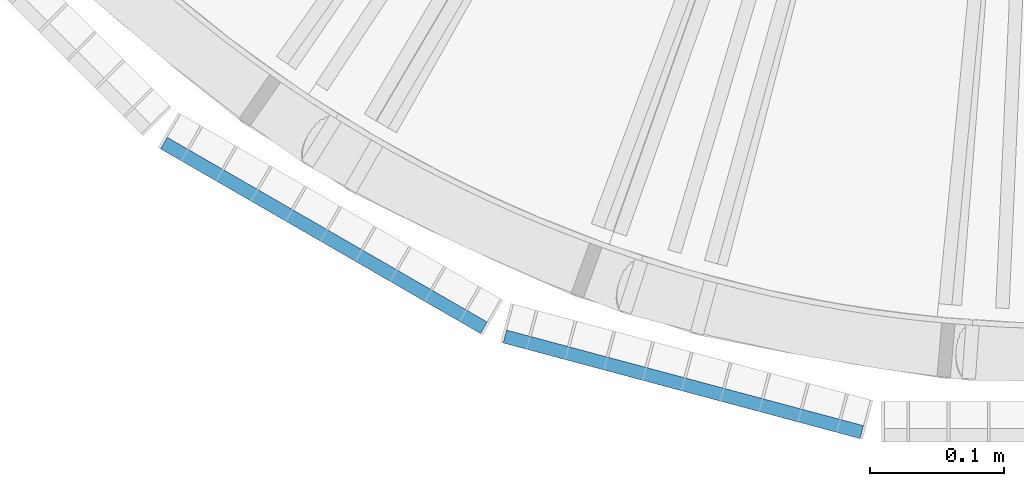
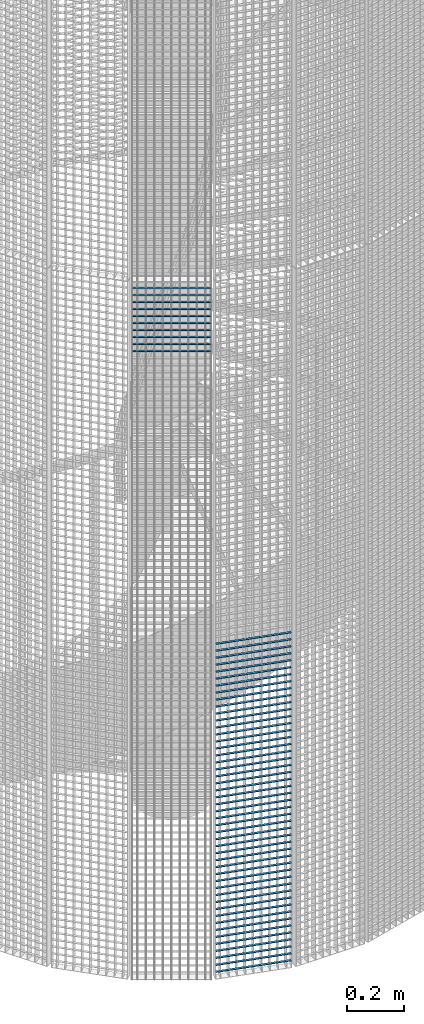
# One storey, part 172 of 1183: 58 beams, 2 elements without a shape of their own.
"""IFC2X3 building model written with IfcOpenShell, lengths in millimetres."""

from ifc_helpers import new_model, si_unit, frame, origin_with_axes, origin_2d_with_axis, place, context, subcontext, project, spatial, rectangle, extrude, material, type_object, element, aggregate, save


model = new_model("IFC2X3")

# Units and contexts
model_context = context("Model", 3, precision=1e-05, world=origin_with_axes())
body_context = subcontext(model_context, "Body", "Model", "MODEL_VIEW")
ifc_project = project(units=[si_unit("LENGTHUNIT", "METRE", prefix="MILLI"), si_unit("AREAUNIT", "SQUARE_METRE"), si_unit("VOLUMEUNIT", "CUBIC_METRE"), si_unit("MASSUNIT", "GRAM", prefix="KILO"), si_unit("TIMEUNIT", "SECOND"), si_unit("PLANEANGLEUNIT", "RADIAN"), si_unit("SOLIDANGLEUNIT", "STERADIAN"), si_unit("THERMODYNAMICTEMPERATUREUNIT", "DEGREE_CELSIUS"), si_unit("LUMINOUSINTENSITYUNIT", "LUMEN")], contexts=[model_context])

# Site, building, storey
site_placement = place(None, origin_with_axes())
site = spatial("IfcSite", under=ifc_project, at=site_placement, Name="Undefined", CompositionType="ELEMENT")
building_placement = place(site_placement, origin_with_axes())
building = spatial("IfcBuilding", under=site, at=building_placement, Name="Undefined", CompositionType="ELEMENT")
storey_placement = place(building_placement, origin_with_axes())
storey = spatial("IfcBuildingStorey", under=building, at=storey_placement, Name="Undefined", CompositionType="ELEMENT", Elevation=0.0)

# Assembly, beams
assembly_1_placement = place(storey_placement, origin_with_axes())
assembly_1 = element("IfcElementAssembly", 1, at=assembly_1_placement, inside=storey, Name="BORDURE", AssemblyPlace="NOTDEFINED", PredefinedType="NOTDEFINED")
ifc_material = material(Name="STEEL/S235JR")
beam_type = type_object("IfcBeamType", Name="PL2*10", PredefinedType="NOTDEFINED")
beam_1_placement = place(assembly_1_placement, frame((-421.483733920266, -1039.82309522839, 1440.0), z_axis=(-0.258819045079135, -0.965925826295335, 0.0), x_axis=(0.965925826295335, -0.258819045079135, 0.0)))
beam_1 = element("IfcBeam", 2, at=beam_1_placement, type_object=beam_type, material=ifc_material, Name="ENTRETOISE", context=body_context, shape_type="SweptSolid", body=[
    extrude(rectangle(XDim=2.0, YDim=10.0, at=origin_2d_with_axis()), frame((275.999999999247, 9.09494701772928e-13, 1.53210777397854e-14), z_axis=(-1.0, 0.0, 0.0), x_axis=(0.0, -1.0, 0.0)), (0.0, 0.0, 1.0), 276.0),
])
beam_2_placement = place(assembly_1_placement, frame((-421.483733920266, -1039.82309522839, 1410.0), z_axis=(-0.258819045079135, -0.965925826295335, 0.0), x_axis=(0.965925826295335, -0.258819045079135, 0.0)))
beam_2 = element("IfcBeam", 3, at=beam_2_placement, type_object=beam_type, material=ifc_material, Name="ENTRETOISE", context=body_context, shape_type="SweptSolid", body=[
    extrude(rectangle(XDim=2.0, YDim=10.0, at=origin_2d_with_axis()), frame((275.999999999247, 9.09494701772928e-13, 1.53210777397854e-14), z_axis=(-1.0, 0.0, 0.0), x_axis=(0.0, -1.0, 0.0)), (0.0, 0.0, 1.0), 276.0),
])
beam_3_placement = place(assembly_1_placement, frame((-421.483733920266, -1039.82309522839, 1380.0), z_axis=(-0.258819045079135, -0.965925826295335, 0.0), x_axis=(0.965925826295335, -0.258819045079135, 0.0)))
beam_3 = element("IfcBeam", 4, at=beam_3_placement, type_object=beam_type, material=ifc_material, Name="ENTRETOISE", context=body_context, shape_type="SweptSolid", body=[
    extrude(rectangle(XDim=2.0, YDim=10.0, at=origin_2d_with_axis()), frame((275.999999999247, 9.09494701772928e-13, 1.53210777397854e-14), z_axis=(-1.0, 0.0, 0.0), x_axis=(0.0, -1.0, 0.0)), (0.0, 0.0, 1.0), 276.0),
])
beam_4_placement = place(assembly_1_placement, frame((-421.483733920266, -1039.82309522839, 1350.0), z_axis=(-0.258819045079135, -0.965925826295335, 0.0), x_axis=(0.965925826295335, -0.258819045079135, 0.0)))
beam_4 = element("IfcBeam", 5, at=beam_4_placement, type_object=beam_type, material=ifc_material, Name="ENTRETOISE", context=body_context, shape_type="SweptSolid", body=[
    extrude(rectangle(XDim=2.0, YDim=10.0, at=origin_2d_with_axis()), frame((275.999999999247, 9.09494701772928e-13, 1.53210777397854e-14), z_axis=(-1.0, 0.0, 0.0), x_axis=(0.0, -1.0, 0.0)), (0.0, 0.0, 1.0), 276.0),
])
beam_5_placement = place(assembly_1_placement, frame((-421.483733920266, -1039.82309522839, 1320.0), z_axis=(-0.258819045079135, -0.965925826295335, 0.0), x_axis=(0.965925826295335, -0.258819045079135, 0.0)))
beam_5 = element("IfcBeam", 6, at=beam_5_placement, type_object=beam_type, material=ifc_material, Name="ENTRETOISE", context=body_context, shape_type="SweptSolid", body=[
    extrude(rectangle(XDim=2.0, YDim=10.0, at=origin_2d_with_axis()), frame((275.999999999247, 9.09494701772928e-13, 1.53210777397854e-14), z_axis=(-1.0, 0.0, 0.0), x_axis=(0.0, -1.0, 0.0)), (0.0, 0.0, 1.0), 276.0),
])
beam_6_placement = place(assembly_1_placement, frame((-421.483733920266, -1039.82309522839, 1290.0), z_axis=(-0.258819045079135, -0.965925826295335, 0.0), x_axis=(0.965925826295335, -0.258819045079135, 0.0)))
beam_6 = element("IfcBeam", 7, at=beam_6_placement, type_object=beam_type, material=ifc_material, Name="ENTRETOISE", context=body_context, shape_type="SweptSolid", body=[
    extrude(rectangle(XDim=2.0, YDim=10.0, at=origin_2d_with_axis()), frame((275.999999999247, 9.09494701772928e-13, 1.53210777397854e-14), z_axis=(-1.0, 0.0, 0.0), x_axis=(0.0, -1.0, 0.0)), (0.0, 0.0, 1.0), 276.0),
])
beam_7_placement = place(assembly_1_placement, frame((-421.483733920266, -1039.82309522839, 1260.0), z_axis=(-0.258819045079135, -0.965925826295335, 0.0), x_axis=(0.965925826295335, -0.258819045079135, 0.0)))
beam_7 = element("IfcBeam", 8, at=beam_7_placement, type_object=beam_type, material=ifc_material, Name="ENTRETOISE", context=body_context, shape_type="SweptSolid", body=[
    extrude(rectangle(XDim=2.0, YDim=10.0, at=origin_2d_with_axis()), frame((275.999999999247, 9.09494701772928e-13, 1.53210777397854e-14), z_axis=(-1.0, 0.0, 0.0), x_axis=(0.0, -1.0, 0.0)), (0.0, 0.0, 1.0), 276.0),
])
beam_8_placement = place(assembly_1_placement, frame((-421.483733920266, -1039.82309522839, 1230.0), z_axis=(-0.258819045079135, -0.965925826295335, 0.0), x_axis=(0.965925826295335, -0.258819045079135, 0.0)))
beam_8 = element("IfcBeam", 9, at=beam_8_placement, type_object=beam_type, material=ifc_material, Name="ENTRETOISE", context=body_context, shape_type="SweptSolid", body=[
    extrude(rectangle(XDim=2.0, YDim=10.0, at=origin_2d_with_axis()), frame((275.999999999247, 9.09494701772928e-13, 1.53210777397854e-14), z_axis=(-1.0, 0.0, 0.0), x_axis=(0.0, -1.0, 0.0)), (0.0, 0.0, 1.0), 276.0),
])
beam_9_placement = place(assembly_1_placement, frame((-421.483733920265, -1039.82309522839, 1200.0), z_axis=(-0.258819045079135, -0.965925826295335, 0.0), x_axis=(0.965925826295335, -0.258819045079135, 0.0)))
beam_9 = element("IfcBeam", 10, at=beam_9_placement, type_object=beam_type, material=ifc_material, Name="ENTRETOISE", context=body_context, shape_type="SweptSolid", body=[
    extrude(rectangle(XDim=2.0, YDim=10.0, at=origin_2d_with_axis()), frame((275.999999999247, 9.09494701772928e-13, 1.53210777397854e-14), z_axis=(-1.0, 0.0, 0.0), x_axis=(0.0, -1.0, 0.0)), (0.0, 0.0, 1.0), 276.0),
])
beam_10_placement = place(assembly_1_placement, frame((-421.483733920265, -1039.82309522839, 1170.0), z_axis=(-0.258819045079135, -0.965925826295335, 0.0), x_axis=(0.965925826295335, -0.258819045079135, 0.0)))
beam_10 = element("IfcBeam", 11, at=beam_10_placement, type_object=beam_type, material=ifc_material, Name="ENTRETOISE", context=body_context, shape_type="SweptSolid", body=[
    extrude(rectangle(XDim=2.0, YDim=10.0, at=origin_2d_with_axis()), frame((275.999999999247, 9.09494701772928e-13, 1.53210777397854e-14), z_axis=(-1.0, 0.0, 0.0), x_axis=(0.0, -1.0, 0.0)), (0.0, 0.0, 1.0), 276.0),
])
beam_11_placement = place(assembly_1_placement, frame((-421.483733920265, -1039.82309522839, 1140.0), z_axis=(-0.258819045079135, -0.965925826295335, 0.0), x_axis=(0.965925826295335, -0.258819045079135, 0.0)))
beam_11 = element("IfcBeam", 12, at=beam_11_placement, type_object=beam_type, material=ifc_material, Name="ENTRETOISE", context=body_context, shape_type="SweptSolid", body=[
    extrude(rectangle(XDim=2.0, YDim=10.0, at=origin_2d_with_axis()), frame((275.999999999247, 9.09494701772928e-13, 1.53210777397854e-14), z_axis=(-1.0, 0.0, 0.0), x_axis=(0.0, -1.0, 0.0)), (0.0, 0.0, 1.0), 276.0),
])
beam_12_placement = place(assembly_1_placement, frame((-421.483733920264, -1039.82309522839, 719.999999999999), z_axis=(-0.258819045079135, -0.965925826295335, 0.0), x_axis=(0.965925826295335, -0.258819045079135, 0.0)))
beam_12 = element("IfcBeam", 13, at=beam_12_placement, type_object=beam_type, material=ifc_material, Name="ENTRETOISE", context=body_context, shape_type="SweptSolid", body=[
    extrude(rectangle(XDim=2.0, YDim=10.0, at=origin_2d_with_axis()), frame((275.999999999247, 9.09494701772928e-13, 1.53210777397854e-14), z_axis=(-1.0, 0.0, 0.0), x_axis=(0.0, -1.0, 0.0)), (0.0, 0.0, 1.0), 276.0),
])
beam_13_placement = place(assembly_1_placement, frame((-421.483733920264, -1039.82309522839, 689.999999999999), z_axis=(-0.258819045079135, -0.965925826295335, 0.0), x_axis=(0.965925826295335, -0.258819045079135, 0.0)))
beam_13 = element("IfcBeam", 14, at=beam_13_placement, type_object=beam_type, material=ifc_material, Name="ENTRETOISE", context=body_context, shape_type="SweptSolid", body=[
    extrude(rectangle(XDim=2.0, YDim=10.0, at=origin_2d_with_axis()), frame((275.999999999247, 9.09494701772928e-13, 1.53210777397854e-14), z_axis=(-1.0, 0.0, 0.0), x_axis=(0.0, -1.0, 0.0)), (0.0, 0.0, 1.0), 276.0),
])
beam_14_placement = place(assembly_1_placement, frame((-421.483733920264, -1039.82309522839, 749.999999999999), z_axis=(-0.258819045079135, -0.965925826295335, 0.0), x_axis=(0.965925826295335, -0.258819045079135, 0.0)))
beam_14 = element("IfcBeam", 15, at=beam_14_placement, type_object=beam_type, material=ifc_material, Name="ENTRETOISE", context=body_context, shape_type="SweptSolid", body=[
    extrude(rectangle(XDim=2.0, YDim=10.0, at=origin_2d_with_axis()), frame((275.999999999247, 9.09494701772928e-13, 1.53210777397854e-14), z_axis=(-1.0, 0.0, 0.0), x_axis=(0.0, -1.0, 0.0)), (0.0, 0.0, 1.0), 276.0),
])
beam_15_placement = place(assembly_1_placement, frame((-421.483733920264, -1039.82309522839, 659.999999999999), z_axis=(-0.258819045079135, -0.965925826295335, 0.0), x_axis=(0.965925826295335, -0.258819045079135, 0.0)))
beam_15 = element("IfcBeam", 16, at=beam_15_placement, type_object=beam_type, material=ifc_material, Name="ENTRETOISE", context=body_context, shape_type="SweptSolid", body=[
    extrude(rectangle(XDim=2.0, YDim=10.0, at=origin_2d_with_axis()), frame((275.999999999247, 9.09494701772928e-13, 1.53210777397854e-14), z_axis=(-1.0, 0.0, 0.0), x_axis=(0.0, -1.0, 0.0)), (0.0, 0.0, 1.0), 276.0),
])
beam_16_placement = place(assembly_1_placement, frame((-421.483733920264, -1039.82309522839, 629.999999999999), z_axis=(-0.258819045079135, -0.965925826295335, 0.0), x_axis=(0.965925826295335, -0.258819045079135, 0.0)))
beam_16 = element("IfcBeam", 17, at=beam_16_placement, type_object=beam_type, material=ifc_material, Name="ENTRETOISE", context=body_context, shape_type="SweptSolid", body=[
    extrude(rectangle(XDim=2.0, YDim=10.0, at=origin_2d_with_axis()), frame((275.999999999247, 9.09494701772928e-13, 1.53210777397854e-14), z_axis=(-1.0, 0.0, 0.0), x_axis=(0.0, -1.0, 0.0)), (0.0, 0.0, 1.0), 276.0),
])
beam_17_placement = place(assembly_1_placement, frame((-421.483733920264, -1039.82309522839, 779.999999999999), z_axis=(-0.258819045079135, -0.965925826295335, 0.0), x_axis=(0.965925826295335, -0.258819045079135, 0.0)))
beam_17 = element("IfcBeam", 18, at=beam_17_placement, type_object=beam_type, material=ifc_material, Name="ENTRETOISE", context=body_context, shape_type="SweptSolid", body=[
    extrude(rectangle(XDim=2.0, YDim=10.0, at=origin_2d_with_axis()), frame((275.999999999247, 9.09494701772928e-13, 1.53210777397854e-14), z_axis=(-1.0, 0.0, 0.0), x_axis=(0.0, -1.0, 0.0)), (0.0, 0.0, 1.0), 276.0),
])
beam_18_placement = place(assembly_1_placement, frame((-421.483733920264, -1039.82309522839, 599.999999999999), z_axis=(-0.258819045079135, -0.965925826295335, 0.0), x_axis=(0.965925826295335, -0.258819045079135, 0.0)))
beam_18 = element("IfcBeam", 19, at=beam_18_placement, type_object=beam_type, material=ifc_material, Name="ENTRETOISE", context=body_context, shape_type="SweptSolid", body=[
    extrude(rectangle(XDim=2.0, YDim=10.0, at=origin_2d_with_axis()), frame((275.999999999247, 9.09494701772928e-13, 1.53210777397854e-14), z_axis=(-1.0, 0.0, 0.0), x_axis=(0.0, -1.0, 0.0)), (0.0, 0.0, 1.0), 276.0),
])
beam_19_placement = place(assembly_1_placement, frame((-421.483733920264, -1039.82309522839, 809.999999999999), z_axis=(-0.258819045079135, -0.965925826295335, 0.0), x_axis=(0.965925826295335, -0.258819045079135, 0.0)))
beam_19 = element("IfcBeam", 20, at=beam_19_placement, type_object=beam_type, material=ifc_material, Name="ENTRETOISE", context=body_context, shape_type="SweptSolid", body=[
    extrude(rectangle(XDim=2.0, YDim=10.0, at=origin_2d_with_axis()), frame((275.999999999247, 9.09494701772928e-13, 1.53210777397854e-14), z_axis=(-1.0, 0.0, 0.0), x_axis=(0.0, -1.0, 0.0)), (0.0, 0.0, 1.0), 276.0),
])
beam_20_placement = place(assembly_1_placement, frame((-421.483733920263, -1039.82309522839, 569.999999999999), z_axis=(-0.258819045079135, -0.965925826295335, 0.0), x_axis=(0.965925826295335, -0.258819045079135, 0.0)))
beam_20 = element("IfcBeam", 21, at=beam_20_placement, type_object=beam_type, material=ifc_material, Name="ENTRETOISE", context=body_context, shape_type="SweptSolid", body=[
    extrude(rectangle(XDim=2.0, YDim=10.0, at=origin_2d_with_axis()), frame((275.999999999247, 9.09494701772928e-13, 1.53210777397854e-14), z_axis=(-1.0, 0.0, 0.0), x_axis=(0.0, -1.0, 0.0)), (0.0, 0.0, 1.0), 276.0),
])
beam_21_placement = place(assembly_1_placement, frame((-421.483733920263, -1039.82309522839, 539.999999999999), z_axis=(-0.258819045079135, -0.965925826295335, 0.0), x_axis=(0.965925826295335, -0.258819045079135, 0.0)))
beam_21 = element("IfcBeam", 22, at=beam_21_placement, type_object=beam_type, material=ifc_material, Name="ENTRETOISE", context=body_context, shape_type="SweptSolid", body=[
    extrude(rectangle(XDim=2.0, YDim=10.0, at=origin_2d_with_axis()), frame((275.999999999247, 9.09494701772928e-13, 1.53210777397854e-14), z_axis=(-1.0, 0.0, 0.0), x_axis=(0.0, -1.0, 0.0)), (0.0, 0.0, 1.0), 276.0),
])
beam_22_placement = place(assembly_1_placement, frame((-421.483733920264, -1039.82309522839, 839.999999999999), z_axis=(-0.258819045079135, -0.965925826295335, 0.0), x_axis=(0.965925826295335, -0.258819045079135, 0.0)))
beam_22 = element("IfcBeam", 23, at=beam_22_placement, type_object=beam_type, material=ifc_material, Name="ENTRETOISE", context=body_context, shape_type="SweptSolid", body=[
    extrude(rectangle(XDim=2.0, YDim=10.0, at=origin_2d_with_axis()), frame((275.999999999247, 9.09494701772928e-13, 1.53210777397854e-14), z_axis=(-1.0, 0.0, 0.0), x_axis=(0.0, -1.0, 0.0)), (0.0, 0.0, 1.0), 276.0),
])
beam_23_placement = place(assembly_1_placement, frame((-421.483733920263, -1039.82309522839, 509.999999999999), z_axis=(-0.258819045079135, -0.965925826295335, 0.0), x_axis=(0.965925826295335, -0.258819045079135, 0.0)))
beam_23 = element("IfcBeam", 24, at=beam_23_placement, type_object=beam_type, material=ifc_material, Name="ENTRETOISE", context=body_context, shape_type="SweptSolid", body=[
    extrude(rectangle(XDim=2.0, YDim=10.0, at=origin_2d_with_axis()), frame((275.999999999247, 9.09494701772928e-13, 1.53210777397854e-14), z_axis=(-1.0, 0.0, 0.0), x_axis=(0.0, -1.0, 0.0)), (0.0, 0.0, 1.0), 276.0),
])
beam_24_placement = place(assembly_1_placement, frame((-421.483733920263, -1039.82309522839, 479.999999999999), z_axis=(-0.258819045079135, -0.965925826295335, 0.0), x_axis=(0.965925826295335, -0.258819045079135, 0.0)))
beam_24 = element("IfcBeam", 25, at=beam_24_placement, type_object=beam_type, material=ifc_material, Name="ENTRETOISE", context=body_context, shape_type="SweptSolid", body=[
    extrude(rectangle(XDim=2.0, YDim=10.0, at=origin_2d_with_axis()), frame((275.999999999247, 9.09494701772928e-13, 1.53210777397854e-14), z_axis=(-1.0, 0.0, 0.0), x_axis=(0.0, -1.0, 0.0)), (0.0, 0.0, 1.0), 276.0),
])
beam_25_placement = place(assembly_1_placement, frame((-421.483733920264, -1039.82309522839, 869.999999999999), z_axis=(-0.258819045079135, -0.965925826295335, 0.0), x_axis=(0.965925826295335, -0.258819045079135, 0.0)))
beam_25 = element("IfcBeam", 26, at=beam_25_placement, type_object=beam_type, material=ifc_material, Name="ENTRETOISE", context=body_context, shape_type="SweptSolid", body=[
    extrude(rectangle(XDim=2.0, YDim=10.0, at=origin_2d_with_axis()), frame((275.999999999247, 9.09494701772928e-13, 1.53210777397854e-14), z_axis=(-1.0, 0.0, 0.0), x_axis=(0.0, -1.0, 0.0)), (0.0, 0.0, 1.0), 276.0),
])
beam_26_placement = place(assembly_1_placement, frame((-421.483733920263, -1039.82309522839, 449.999999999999), z_axis=(-0.258819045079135, -0.965925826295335, 0.0), x_axis=(0.965925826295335, -0.258819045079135, 0.0)))
beam_26 = element("IfcBeam", 27, at=beam_26_placement, type_object=beam_type, material=ifc_material, Name="ENTRETOISE", context=body_context, shape_type="SweptSolid", body=[
    extrude(rectangle(XDim=2.0, YDim=10.0, at=origin_2d_with_axis()), frame((275.999999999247, 9.09494701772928e-13, 1.53210777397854e-14), z_axis=(-1.0, 0.0, 0.0), x_axis=(0.0, -1.0, 0.0)), (0.0, 0.0, 1.0), 276.0),
])
beam_27_placement = place(assembly_1_placement, frame((-421.483733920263, -1039.82309522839, 419.999999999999), z_axis=(-0.258819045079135, -0.965925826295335, 0.0), x_axis=(0.965925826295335, -0.258819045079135, 0.0)))
beam_27 = element("IfcBeam", 28, at=beam_27_placement, type_object=beam_type, material=ifc_material, Name="ENTRETOISE", context=body_context, shape_type="SweptSolid", body=[
    extrude(rectangle(XDim=2.0, YDim=10.0, at=origin_2d_with_axis()), frame((275.999999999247, 9.09494701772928e-13, 1.53210777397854e-14), z_axis=(-1.0, 0.0, 0.0), x_axis=(0.0, -1.0, 0.0)), (0.0, 0.0, 1.0), 276.0),
])
beam_28_placement = place(assembly_1_placement, frame((-421.483733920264, -1039.82309522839, 899.999999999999), z_axis=(-0.258819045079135, -0.965925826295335, 0.0), x_axis=(0.965925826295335, -0.258819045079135, 0.0)))
beam_28 = element("IfcBeam", 29, at=beam_28_placement, type_object=beam_type, material=ifc_material, Name="ENTRETOISE", context=body_context, shape_type="SweptSolid", body=[
    extrude(rectangle(XDim=2.0, YDim=10.0, at=origin_2d_with_axis()), frame((275.999999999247, 9.09494701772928e-13, 1.53210777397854e-14), z_axis=(-1.0, 0.0, 0.0), x_axis=(0.0, -1.0, 0.0)), (0.0, 0.0, 1.0), 276.0),
])
beam_29_placement = place(assembly_1_placement, frame((-421.483733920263, -1039.82309522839, 389.999999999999), z_axis=(-0.258819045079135, -0.965925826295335, 0.0), x_axis=(0.965925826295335, -0.258819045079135, 0.0)))
beam_29 = element("IfcBeam", 30, at=beam_29_placement, type_object=beam_type, material=ifc_material, Name="ENTRETOISE", context=body_context, shape_type="SweptSolid", body=[
    extrude(rectangle(XDim=2.0, YDim=10.0, at=origin_2d_with_axis()), frame((275.999999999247, 9.09494701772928e-13, 1.53210777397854e-14), z_axis=(-1.0, 0.0, 0.0), x_axis=(0.0, -1.0, 0.0)), (0.0, 0.0, 1.0), 276.0),
])
beam_30_placement = place(assembly_1_placement, frame((-421.483733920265, -1039.82309522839, 929.999999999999), z_axis=(-0.258819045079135, -0.965925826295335, 0.0), x_axis=(0.965925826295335, -0.258819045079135, 0.0)))
beam_30 = element("IfcBeam", 31, at=beam_30_placement, type_object=beam_type, material=ifc_material, Name="ENTRETOISE", context=body_context, shape_type="SweptSolid", body=[
    extrude(rectangle(XDim=2.0, YDim=10.0, at=origin_2d_with_axis()), frame((275.999999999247, 9.09494701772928e-13, 1.53210777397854e-14), z_axis=(-1.0, 0.0, 0.0), x_axis=(0.0, -1.0, 0.0)), (0.0, 0.0, 1.0), 276.0),
])
beam_31_placement = place(assembly_1_placement, frame((-421.483733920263, -1039.82309522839, 359.999999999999), z_axis=(-0.258819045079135, -0.965925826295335, 0.0), x_axis=(0.965925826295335, -0.258819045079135, 0.0)))
beam_31 = element("IfcBeam", 32, at=beam_31_placement, type_object=beam_type, material=ifc_material, Name="ENTRETOISE", context=body_context, shape_type="SweptSolid", body=[
    extrude(rectangle(XDim=2.0, YDim=10.0, at=origin_2d_with_axis()), frame((275.999999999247, 9.09494701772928e-13, 1.53210777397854e-14), z_axis=(-1.0, 0.0, 0.0), x_axis=(0.0, -1.0, 0.0)), (0.0, 0.0, 1.0), 276.0),
])
beam_32_placement = place(assembly_1_placement, frame((-421.483733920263, -1039.82309522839, 329.999999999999), z_axis=(-0.258819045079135, -0.965925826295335, 0.0), x_axis=(0.965925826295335, -0.258819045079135, 0.0)))
beam_32 = element("IfcBeam", 33, at=beam_32_placement, type_object=beam_type, material=ifc_material, Name="ENTRETOISE", context=body_context, shape_type="SweptSolid", body=[
    extrude(rectangle(XDim=2.0, YDim=10.0, at=origin_2d_with_axis()), frame((275.999999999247, 9.09494701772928e-13, 1.53210777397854e-14), z_axis=(-1.0, 0.0, 0.0), x_axis=(0.0, -1.0, 0.0)), (0.0, 0.0, 1.0), 276.0),
])
beam_33_placement = place(assembly_1_placement, frame((-421.483733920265, -1039.82309522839, 959.999999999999), z_axis=(-0.258819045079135, -0.965925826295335, 0.0), x_axis=(0.965925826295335, -0.258819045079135, 0.0)))
beam_33 = element("IfcBeam", 34, at=beam_33_placement, type_object=beam_type, material=ifc_material, Name="ENTRETOISE", context=body_context, shape_type="SweptSolid", body=[
    extrude(rectangle(XDim=2.0, YDim=10.0, at=origin_2d_with_axis()), frame((275.999999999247, 9.09494701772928e-13, 1.53210777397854e-14), z_axis=(-1.0, 0.0, 0.0), x_axis=(0.0, -1.0, 0.0)), (0.0, 0.0, 1.0), 276.0),
])
beam_34_placement = place(assembly_1_placement, frame((-421.483733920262, -1039.82309522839, 299.999999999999), z_axis=(-0.258819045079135, -0.965925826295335, 0.0), x_axis=(0.965925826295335, -0.258819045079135, 0.0)))
beam_34 = element("IfcBeam", 35, at=beam_34_placement, type_object=beam_type, material=ifc_material, Name="ENTRETOISE", context=body_context, shape_type="SweptSolid", body=[
    extrude(rectangle(XDim=2.0, YDim=10.0, at=origin_2d_with_axis()), frame((275.999999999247, 9.09494701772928e-13, 1.53210777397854e-14), z_axis=(-1.0, 0.0, 0.0), x_axis=(0.0, -1.0, 0.0)), (0.0, 0.0, 1.0), 276.0),
])
beam_35_placement = place(assembly_1_placement, frame((-421.483733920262, -1039.82309522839, 269.999999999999), z_axis=(-0.258819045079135, -0.965925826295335, 0.0), x_axis=(0.965925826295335, -0.258819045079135, 0.0)))
beam_35 = element("IfcBeam", 36, at=beam_35_placement, type_object=beam_type, material=ifc_material, Name="ENTRETOISE", context=body_context, shape_type="SweptSolid", body=[
    extrude(rectangle(XDim=2.0, YDim=10.0, at=origin_2d_with_axis()), frame((275.999999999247, 9.09494701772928e-13, 1.53210777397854e-14), z_axis=(-1.0, 0.0, 0.0), x_axis=(0.0, -1.0, 0.0)), (0.0, 0.0, 1.0), 276.0),
])
beam_36_placement = place(assembly_1_placement, frame((-421.483733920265, -1039.82309522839, 989.999999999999), z_axis=(-0.258819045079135, -0.965925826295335, 0.0), x_axis=(0.965925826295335, -0.258819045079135, 0.0)))
beam_36 = element("IfcBeam", 37, at=beam_36_placement, type_object=beam_type, material=ifc_material, Name="ENTRETOISE", context=body_context, shape_type="SweptSolid", body=[
    extrude(rectangle(XDim=2.0, YDim=10.0, at=origin_2d_with_axis()), frame((275.999999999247, 9.09494701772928e-13, 1.53210777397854e-14), z_axis=(-1.0, 0.0, 0.0), x_axis=(0.0, -1.0, 0.0)), (0.0, 0.0, 1.0), 276.0),
])
beam_37_placement = place(assembly_1_placement, frame((-421.483733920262, -1039.82309522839, 239.999999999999), z_axis=(-0.258819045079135, -0.965925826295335, 0.0), x_axis=(0.965925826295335, -0.258819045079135, 0.0)))
beam_37 = element("IfcBeam", 38, at=beam_37_placement, type_object=beam_type, material=ifc_material, Name="ENTRETOISE", context=body_context, shape_type="SweptSolid", body=[
    extrude(rectangle(XDim=2.0, YDim=10.0, at=origin_2d_with_axis()), frame((275.999999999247, 9.09494701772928e-13, 1.53210777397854e-14), z_axis=(-1.0, 0.0, 0.0), x_axis=(0.0, -1.0, 0.0)), (0.0, 0.0, 1.0), 276.0),
])
beam_38_placement = place(assembly_1_placement, frame((-421.483733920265, -1039.82309522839, 1020.0), z_axis=(-0.258819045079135, -0.965925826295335, 0.0), x_axis=(0.965925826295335, -0.258819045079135, 0.0)))
beam_38 = element("IfcBeam", 39, at=beam_38_placement, type_object=beam_type, material=ifc_material, Name="ENTRETOISE", context=body_context, shape_type="SweptSolid", body=[
    extrude(rectangle(XDim=2.0, YDim=10.0, at=origin_2d_with_axis()), frame((275.999999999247, 9.09494701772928e-13, 1.53210777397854e-14), z_axis=(-1.0, 0.0, 0.0), x_axis=(0.0, -1.0, 0.0)), (0.0, 0.0, 1.0), 276.0),
])
beam_39_placement = place(assembly_1_placement, frame((-421.483733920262, -1039.82309522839, 209.999999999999), z_axis=(-0.258819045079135, -0.965925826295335, 0.0), x_axis=(0.965925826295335, -0.258819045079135, 0.0)))
beam_39 = element("IfcBeam", 40, at=beam_39_placement, type_object=beam_type, material=ifc_material, Name="ENTRETOISE", context=body_context, shape_type="SweptSolid", body=[
    extrude(rectangle(XDim=2.0, YDim=10.0, at=origin_2d_with_axis()), frame((275.999999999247, 9.09494701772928e-13, 1.53210777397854e-14), z_axis=(-1.0, 0.0, 0.0), x_axis=(0.0, -1.0, 0.0)), (0.0, 0.0, 1.0), 276.0),
])
beam_40_placement = place(assembly_1_placement, frame((-421.483733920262, -1039.82309522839, 179.999999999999), z_axis=(-0.258819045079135, -0.965925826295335, 0.0), x_axis=(0.965925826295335, -0.258819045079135, 0.0)))
beam_40 = element("IfcBeam", 41, at=beam_40_placement, type_object=beam_type, material=ifc_material, Name="ENTRETOISE", context=body_context, shape_type="SweptSolid", body=[
    extrude(rectangle(XDim=2.0, YDim=10.0, at=origin_2d_with_axis()), frame((275.999999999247, 9.09494701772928e-13, 1.53210777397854e-14), z_axis=(-1.0, 0.0, 0.0), x_axis=(0.0, -1.0, 0.0)), (0.0, 0.0, 1.0), 276.0),
])
beam_41_placement = place(assembly_1_placement, frame((-421.483733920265, -1039.82309522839, 1050.0), z_axis=(-0.258819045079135, -0.965925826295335, 0.0), x_axis=(0.965925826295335, -0.258819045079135, 0.0)))
beam_41 = element("IfcBeam", 42, at=beam_41_placement, type_object=beam_type, material=ifc_material, Name="ENTRETOISE", context=body_context, shape_type="SweptSolid", body=[
    extrude(rectangle(XDim=2.0, YDim=10.0, at=origin_2d_with_axis()), frame((275.999999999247, 9.09494701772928e-13, 1.53210777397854e-14), z_axis=(-1.0, 0.0, 0.0), x_axis=(0.0, -1.0, 0.0)), (0.0, 0.0, 1.0), 276.0),
])
beam_42_placement = place(assembly_1_placement, frame((-421.483733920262, -1039.82309522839, 149.999999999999), z_axis=(-0.258819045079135, -0.965925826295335, 0.0), x_axis=(0.965925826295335, -0.258819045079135, 0.0)))
beam_42 = element("IfcBeam", 43, at=beam_42_placement, type_object=beam_type, material=ifc_material, Name="ENTRETOISE", context=body_context, shape_type="SweptSolid", body=[
    extrude(rectangle(XDim=2.0, YDim=10.0, at=origin_2d_with_axis()), frame((275.999999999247, 9.09494701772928e-13, 1.53210777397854e-14), z_axis=(-1.0, 0.0, 0.0), x_axis=(0.0, -1.0, 0.0)), (0.0, 0.0, 1.0), 276.0),
])
beam_43_placement = place(assembly_1_placement, frame((-421.483733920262, -1039.82309522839, 119.999999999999), z_axis=(-0.258819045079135, -0.965925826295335, 0.0), x_axis=(0.965925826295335, -0.258819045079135, 0.0)))
beam_43 = element("IfcBeam", 44, at=beam_43_placement, type_object=beam_type, material=ifc_material, Name="ENTRETOISE", context=body_context, shape_type="SweptSolid", body=[
    extrude(rectangle(XDim=2.0, YDim=10.0, at=origin_2d_with_axis()), frame((275.999999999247, 9.09494701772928e-13, 1.53210777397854e-14), z_axis=(-1.0, 0.0, 0.0), x_axis=(0.0, -1.0, 0.0)), (0.0, 0.0, 1.0), 276.0),
])
beam_44_placement = place(assembly_1_placement, frame((-421.483733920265, -1039.82309522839, 1080.0), z_axis=(-0.258819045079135, -0.965925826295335, 0.0), x_axis=(0.965925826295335, -0.258819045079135, 0.0)))
beam_44 = element("IfcBeam", 45, at=beam_44_placement, type_object=beam_type, material=ifc_material, Name="ENTRETOISE", context=body_context, shape_type="SweptSolid", body=[
    extrude(rectangle(XDim=2.0, YDim=10.0, at=origin_2d_with_axis()), frame((275.999999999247, 9.09494701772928e-13, 1.53210777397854e-14), z_axis=(-1.0, 0.0, 0.0), x_axis=(0.0, -1.0, 0.0)), (0.0, 0.0, 1.0), 276.0),
])
beam_45_placement = place(assembly_1_placement, frame((-421.483733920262, -1039.82309522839, 89.9999999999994), z_axis=(-0.258819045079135, -0.965925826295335, 0.0), x_axis=(0.965925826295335, -0.258819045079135, 0.0)))
beam_45 = element("IfcBeam", 46, at=beam_45_placement, type_object=beam_type, material=ifc_material, Name="ENTRETOISE", context=body_context, shape_type="SweptSolid", body=[
    extrude(rectangle(XDim=2.0, YDim=10.0, at=origin_2d_with_axis()), frame((275.999999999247, 9.09494701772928e-13, 1.53210777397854e-14), z_axis=(-1.0, 0.0, 0.0), x_axis=(0.0, -1.0, 0.0)), (0.0, 0.0, 1.0), 276.0),
])
beam_46_placement = place(assembly_1_placement, frame((-421.483733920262, -1039.82309522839, 59.9999999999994), z_axis=(-0.258819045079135, -0.965925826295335, 0.0), x_axis=(0.965925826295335, -0.258819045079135, 0.0)))
beam_46 = element("IfcBeam", 47, at=beam_46_placement, type_object=beam_type, material=ifc_material, Name="ENTRETOISE", context=body_context, shape_type="SweptSolid", body=[
    extrude(rectangle(XDim=2.0, YDim=10.0, at=origin_2d_with_axis()), frame((275.999999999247, 9.09494701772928e-13, 1.53210777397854e-14), z_axis=(-1.0, 0.0, 0.0), x_axis=(0.0, -1.0, 0.0)), (0.0, 0.0, 1.0), 276.0),
])
beam_47_placement = place(assembly_1_placement, frame((-421.483733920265, -1039.82309522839, 1110.0), z_axis=(-0.258819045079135, -0.965925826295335, 0.0), x_axis=(0.965925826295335, -0.258819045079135, 0.0)))
beam_47 = element("IfcBeam", 48, at=beam_47_placement, type_object=beam_type, material=ifc_material, Name="ENTRETOISE", context=body_context, shape_type="SweptSolid", body=[
    extrude(rectangle(XDim=2.0, YDim=10.0, at=origin_2d_with_axis()), frame((275.999999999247, 9.09494701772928e-13, 1.53210777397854e-14), z_axis=(-1.0, 0.0, 0.0), x_axis=(0.0, -1.0, 0.0)), (0.0, 0.0, 1.0), 276.0),
])
beam_48_placement = place(assembly_1_placement, frame((-421.48373392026, -1039.82309522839, 29.9999999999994), z_axis=(-0.258819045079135, -0.965925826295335, 0.0), x_axis=(0.965925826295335, -0.258819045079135, 0.0)))
beam_48 = element("IfcBeam", 49, at=beam_48_placement, type_object=beam_type, material=ifc_material, Name="ENTRETOISE", context=body_context, shape_type="SweptSolid", body=[
    extrude(rectangle(XDim=2.0, YDim=10.0, at=origin_2d_with_axis()), frame((275.999999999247, 9.09494701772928e-13, 1.53210777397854e-14), z_axis=(-1.0, 0.0, 0.0), x_axis=(0.0, -1.0, 0.0)), (0.0, 0.0, 1.0), 276.0),
])
aggregate(assembly_1, [beam_1, beam_2, beam_3, beam_4, beam_5, beam_6, beam_7, beam_8, beam_9, beam_10, beam_11, beam_12, beam_13, beam_14, beam_15, beam_16, beam_17, beam_18, beam_19, beam_20, beam_21, beam_22, beam_23, beam_24, beam_25, beam_26, beam_27, beam_28, beam_29, beam_30, beam_31, beam_32, beam_33, beam_34, beam_35, beam_36, beam_37, beam_38, beam_39, beam_40, beam_41, beam_42, beam_43, beam_44, beam_45, beam_46, beam_47, beam_48])

assembly_2_placement = place(storey_placement, origin_with_axes())
assembly_2 = element("IfcElementAssembly", 50, at=assembly_2_placement, inside=storey, Name="BORDURE", AssemblyPlace="NOTDEFINED", PredefinedType="NOTDEFINED")
beam_49_placement = place(assembly_2_placement, frame((-676.248044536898, -895.303964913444, 2970.0), z_axis=(-0.49999999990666, -0.866025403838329, 0.0), x_axis=(0.866025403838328, -0.49999999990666, 0.0)))
beam_49 = element("IfcBeam", 51, at=beam_49_placement, type_object=beam_type, material=ifc_material, Name="ENTRETOISE", context=body_context, shape_type="SweptSolid", body=[
    extrude(rectangle(XDim=2.0, YDim=10.0, at=origin_2d_with_axis()), frame((275.999999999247, 9.09494701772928e-13, 1.53210777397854e-14), z_axis=(-1.0, 0.0, 0.0), x_axis=(0.0, -1.0, 0.0)), (0.0, 0.0, 1.0), 276.0),
])
beam_50_placement = place(assembly_2_placement, frame((-676.248044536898, -895.303964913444, 2940.0), z_axis=(-0.49999999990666, -0.866025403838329, 0.0), x_axis=(0.866025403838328, -0.49999999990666, 0.0)))
beam_50 = element("IfcBeam", 52, at=beam_50_placement, type_object=beam_type, material=ifc_material, Name="ENTRETOISE", context=body_context, shape_type="SweptSolid", body=[
    extrude(rectangle(XDim=2.0, YDim=10.0, at=origin_2d_with_axis()), frame((275.999999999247, 9.09494701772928e-13, 1.53210777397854e-14), z_axis=(-1.0, 0.0, 0.0), x_axis=(0.0, -1.0, 0.0)), (0.0, 0.0, 1.0), 276.0),
])
beam_51_placement = place(assembly_2_placement, frame((-676.248044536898, -895.303964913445, 2910.0), z_axis=(-0.49999999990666, -0.866025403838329, 0.0), x_axis=(0.866025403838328, -0.49999999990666, 0.0)))
beam_51 = element("IfcBeam", 53, at=beam_51_placement, type_object=beam_type, material=ifc_material, Name="ENTRETOISE", context=body_context, shape_type="SweptSolid", body=[
    extrude(rectangle(XDim=2.0, YDim=10.0, at=origin_2d_with_axis()), frame((275.999999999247, 9.09494701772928e-13, 1.53210777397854e-14), z_axis=(-1.0, 0.0, 0.0), x_axis=(0.0, -1.0, 0.0)), (0.0, 0.0, 1.0), 276.0),
])
beam_52_placement = place(assembly_2_placement, frame((-676.248044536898, -895.303964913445, 2880.0), z_axis=(-0.49999999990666, -0.866025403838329, 0.0), x_axis=(0.866025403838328, -0.49999999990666, 0.0)))
beam_52 = element("IfcBeam", 54, at=beam_52_placement, type_object=beam_type, material=ifc_material, Name="ENTRETOISE", context=body_context, shape_type="SweptSolid", body=[
    extrude(rectangle(XDim=2.0, YDim=10.0, at=origin_2d_with_axis()), frame((275.999999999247, 9.09494701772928e-13, 1.53210777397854e-14), z_axis=(-1.0, 0.0, 0.0), x_axis=(0.0, -1.0, 0.0)), (0.0, 0.0, 1.0), 276.0),
])
beam_53_placement = place(assembly_2_placement, frame((-676.248044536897, -895.303964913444, 2850.0), z_axis=(-0.49999999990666, -0.866025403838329, 0.0), x_axis=(0.866025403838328, -0.49999999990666, 0.0)))
beam_53 = element("IfcBeam", 55, at=beam_53_placement, type_object=beam_type, material=ifc_material, Name="ENTRETOISE", context=body_context, shape_type="SweptSolid", body=[
    extrude(rectangle(XDim=2.0, YDim=10.0, at=origin_2d_with_axis()), frame((275.999999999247, 9.09494701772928e-13, 1.53210777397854e-14), z_axis=(-1.0, 0.0, 0.0), x_axis=(0.0, -1.0, 0.0)), (0.0, 0.0, 1.0), 276.0),
])
beam_54_placement = place(assembly_2_placement, frame((-676.248044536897, -895.303964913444, 2820.0), z_axis=(-0.49999999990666, -0.866025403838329, 0.0), x_axis=(0.866025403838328, -0.49999999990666, 0.0)))
beam_54 = element("IfcBeam", 56, at=beam_54_placement, type_object=beam_type, material=ifc_material, Name="ENTRETOISE", context=body_context, shape_type="SweptSolid", body=[
    extrude(rectangle(XDim=2.0, YDim=10.0, at=origin_2d_with_axis()), frame((275.999999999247, 9.09494701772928e-13, 1.53210777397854e-14), z_axis=(-1.0, 0.0, 0.0), x_axis=(0.0, -1.0, 0.0)), (0.0, 0.0, 1.0), 276.0),
])
beam_55_placement = place(assembly_2_placement, frame((-676.248044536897, -895.303964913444, 2790.0), z_axis=(-0.49999999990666, -0.866025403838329, 0.0), x_axis=(0.866025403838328, -0.49999999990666, 0.0)))
beam_55 = element("IfcBeam", 57, at=beam_55_placement, type_object=beam_type, material=ifc_material, Name="ENTRETOISE", context=body_context, shape_type="SweptSolid", body=[
    extrude(rectangle(XDim=2.0, YDim=10.0, at=origin_2d_with_axis()), frame((275.999999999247, 9.09494701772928e-13, 1.53210777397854e-14), z_axis=(-1.0, 0.0, 0.0), x_axis=(0.0, -1.0, 0.0)), (0.0, 0.0, 1.0), 276.0),
])
beam_56_placement = place(assembly_2_placement, frame((-676.248044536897, -895.303964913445, 2760.0), z_axis=(-0.49999999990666, -0.866025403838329, 0.0), x_axis=(0.866025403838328, -0.49999999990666, 0.0)))
beam_56 = element("IfcBeam", 58, at=beam_56_placement, type_object=beam_type, material=ifc_material, Name="ENTRETOISE", context=body_context, shape_type="SweptSolid", body=[
    extrude(rectangle(XDim=2.0, YDim=10.0, at=origin_2d_with_axis()), frame((275.999999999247, 9.09494701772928e-13, 1.53210777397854e-14), z_axis=(-1.0, 0.0, 0.0), x_axis=(0.0, -1.0, 0.0)), (0.0, 0.0, 1.0), 276.0),
])
beam_57_placement = place(assembly_2_placement, frame((-676.248044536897, -895.303964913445, 2730.0), z_axis=(-0.49999999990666, -0.866025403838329, 0.0), x_axis=(0.866025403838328, -0.49999999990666, 0.0)))
beam_57 = element("IfcBeam", 59, at=beam_57_placement, type_object=beam_type, material=ifc_material, Name="ENTRETOISE", context=body_context, shape_type="SweptSolid", body=[
    extrude(rectangle(XDim=2.0, YDim=10.0, at=origin_2d_with_axis()), frame((275.999999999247, 9.09494701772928e-13, 1.53210777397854e-14), z_axis=(-1.0, 0.0, 0.0), x_axis=(0.0, -1.0, 0.0)), (0.0, 0.0, 1.0), 276.0),
])
beam_58_placement = place(assembly_2_placement, frame((-676.248044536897, -895.303964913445, 2700.0), z_axis=(-0.49999999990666, -0.866025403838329, 0.0), x_axis=(0.866025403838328, -0.49999999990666, 0.0)))
beam_58 = element("IfcBeam", 60, at=beam_58_placement, type_object=beam_type, material=ifc_material, Name="ENTRETOISE", context=body_context, shape_type="SweptSolid", body=[
    extrude(rectangle(XDim=2.0, YDim=10.0, at=origin_2d_with_axis()), frame((275.999999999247, 9.09494701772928e-13, 1.53210777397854e-14), z_axis=(-1.0, 0.0, 0.0), x_axis=(0.0, -1.0, 0.0)), (0.0, 0.0, 1.0), 276.0),
])
aggregate(assembly_2, [beam_49, beam_50, beam_51, beam_52, beam_53, beam_54, beam_55, beam_56, beam_57, beam_58])

save(model, "model.ifc")
